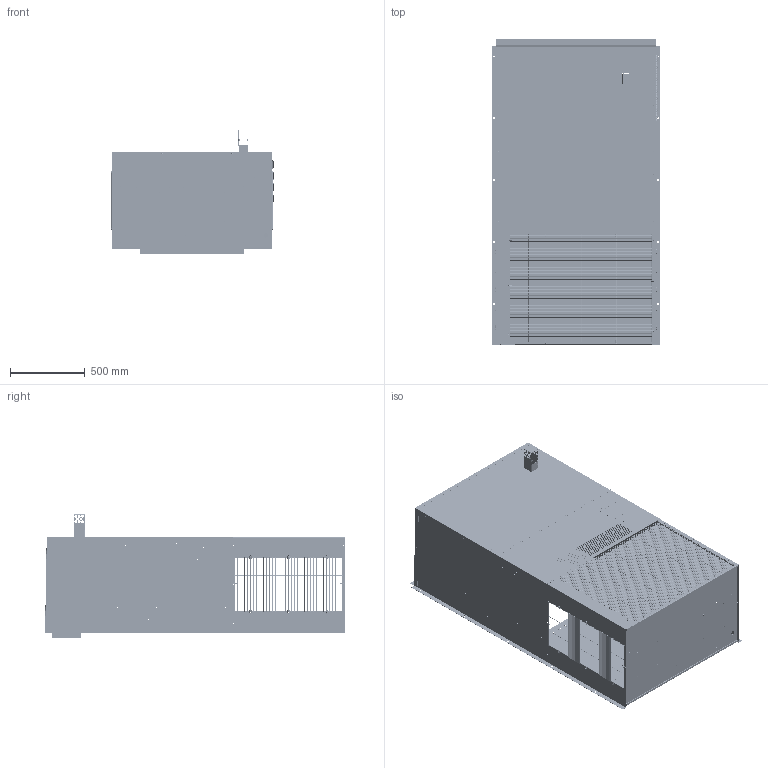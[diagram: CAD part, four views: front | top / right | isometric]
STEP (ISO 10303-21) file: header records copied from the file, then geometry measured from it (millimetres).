
FILE_DESCRIPTION (( 'STEP AP214' ), '1' );
FILE_NAME ('GAA1036.STEP', '2019-10-22T18:20:00', ( '' ), ( '' ), 'SwSTEP 2.0', 'SolidWorks 2016', '' );
FILE_SCHEMA (( 'AUTOMOTIVE_DESIGN' ));
Length unit declared in the file: inch
Products named in the file (24): SMM16003X; SMM23004X_MD10661; SMM23009X; SMM22003X; SMM13019X_SMM13019X; SMM13018X_SMM13018X; SMM12012X; 93251-vend; SMM12011X; COIL GUARD, AVHA24-HIGH PART 3-36H; SMM10010X; COIL GUARD, AVHA24-HIGH PART 2-36H; 60345; COIL GUARD, AVHA24-HIGH PART 1-36H; 81775; GAA1036; COIL GUARD-2, AVHA24-HIGH PART 3-36H; COIL GUARD-2, AVHA24-HIGH PART 2-36H; COIL GUARD-2, AVHA24-HIGH PART 1-36H; SMM20014X; SMM45007X; SMM21016X; SMM12013X; SMM45005X
Assembly tree (39 placements, depth 3):
  GAA1036
    60345
    SMM10010X
    SMM12011X
    SMM12012X
    SMM13018X_SMM13018X
    SMM13019X_SMM13019X
    SMM22003X
    SMM23009X
    SMM23004X_MD10661
    SMM16003X
    SMM45005X
    SMM12013X
    SMM21016X  x2
    SMM45007X
    SMM20014X
    81775  x2
      COIL GUARD-2, AVHA24-HIGH PART 1-36H
      COIL GUARD-2, AVHA24-HIGH PART 2-36H
      COIL GUARD-2, AVHA24-HIGH PART 3-36H
    93251-vend
      COIL GUARD, AVHA24-HIGH PART 1-36H
      COIL GUARD, AVHA24-HIGH PART 2-36H  x4
      COIL GUARD, AVHA24-HIGH PART 3-36H  x6
Bounding box: 1124.02 x 2037.19 x 823.44 mm (x, y, z)
Volume: 51911673.6 mm3; surface area: 23077657.5 mm2
Topology: 365 solids, 365 shells, 7735 faces, 18614 edges, 11592 vertices
Faces by surface type: cylinder 3299, plane 2336, cone 684, torus 584, sphere 436, bspline 396
Entity records: 264941 total; most frequent: CARTESIAN_POINT 50107, DIRECTION 40660, ORIENTED_EDGE 35400, EDGE_CURVE 17700, AXIS2_PLACEMENT_3D 16411, VERTEX_POINT 11008, CIRCLE 9550, EDGE_LOOP 9008
